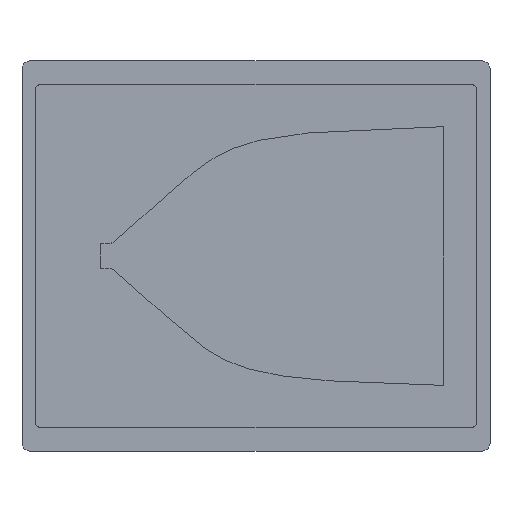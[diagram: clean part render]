
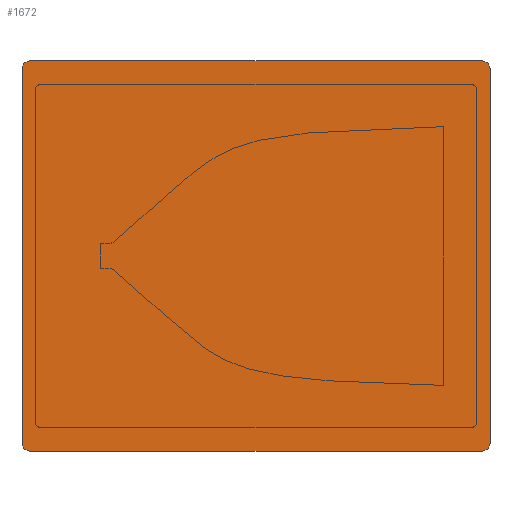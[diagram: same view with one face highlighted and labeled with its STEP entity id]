
A CAD part, front view. The second image highlights one B-rep face of the part: STEP entity #1672.
In plain terms, the highlighted planar face has unit normal (0, -1, 0) as drawn and (0, 0, 1) by its records, which use the part's own axes.
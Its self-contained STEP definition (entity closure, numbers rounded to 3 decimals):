
#176=FACE_OUTER_BOUND('',#277,.T.);
#277=EDGE_LOOP('',(#1502,#1503,#1504,#1505,#1506,#1507,#1508,#1509));
#436=LINE('',#3541,#603);
#438=LINE('',#3546,#605);
#442=LINE('',#3555,#609);
#448=LINE('',#3568,#615);
#603=VECTOR('',#2229,1000.);
#605=VECTOR('',#2233,1000.);
#609=VECTOR('',#2239,1000.);
#615=VECTOR('',#2247,1000.);
#659=CIRCLE('',#1825,10.);
#660=CIRCLE('',#1826,10.);
#661=CIRCLE('',#1827,10.);
#662=CIRCLE('',#1828,10.);
#809=VERTEX_POINT('',#3538);
#810=VERTEX_POINT('',#3540);
#811=VERTEX_POINT('',#3544);
#812=VERTEX_POINT('',#3545);
#815=VERTEX_POINT('',#3553);
#816=VERTEX_POINT('',#3554);
#821=VERTEX_POINT('',#3565);
#822=VERTEX_POINT('',#3567);
#1038=EDGE_CURVE('',#810,#809,#436,.T.);
#1040=EDGE_CURVE('',#811,#812,#438,.T.);
#1044=EDGE_CURVE('',#815,#816,#442,.T.);
#1050=EDGE_CURVE('',#822,#821,#448,.T.);
#1052=EDGE_CURVE('',#809,#811,#659,.T.);
#1053=EDGE_CURVE('',#812,#815,#660,.T.);
#1054=EDGE_CURVE('',#816,#822,#661,.T.);
#1055=EDGE_CURVE('',#821,#810,#662,.T.);
#1502=ORIENTED_EDGE('',*,*,#1038,.T.);
#1503=ORIENTED_EDGE('',*,*,#1052,.T.);
#1504=ORIENTED_EDGE('',*,*,#1040,.T.);
#1505=ORIENTED_EDGE('',*,*,#1053,.T.);
#1506=ORIENTED_EDGE('',*,*,#1044,.T.);
#1507=ORIENTED_EDGE('',*,*,#1054,.T.);
#1508=ORIENTED_EDGE('',*,*,#1050,.T.);
#1509=ORIENTED_EDGE('',*,*,#1055,.T.);
#1587=PLANE('',#1824);
#1672=ADVANCED_FACE('',(#176),#1587,.T.);
#1824=AXIS2_PLACEMENT_3D('',#3570,#2249,#2250);
#1825=AXIS2_PLACEMENT_3D('',#3571,#2251,#2252);
#1826=AXIS2_PLACEMENT_3D('',#3572,#2253,#2254);
#1827=AXIS2_PLACEMENT_3D('',#3573,#2255,#2256);
#1828=AXIS2_PLACEMENT_3D('',#3574,#2257,#2258);
#2229=DIRECTION('',(0.,-1.,0.));
#2233=DIRECTION('',(1.,0.,0.));
#2239=DIRECTION('',(0.,1.,0.));
#2247=DIRECTION('',(-1.,0.,0.));
#2249=DIRECTION('center_axis',(0.,0.,1.));
#2250=DIRECTION('ref_axis',(1.,0.,0.));
#2251=DIRECTION('center_axis',(0.,0.,1.));
#2252=DIRECTION('ref_axis',(1.,0.,0.));
#2253=DIRECTION('center_axis',(0.,0.,1.));
#2254=DIRECTION('ref_axis',(1.,0.,0.));
#2255=DIRECTION('center_axis',(0.,0.,1.));
#2256=DIRECTION('ref_axis',(1.,0.,0.));
#2257=DIRECTION('center_axis',(0.,0.,1.));
#2258=DIRECTION('ref_axis',(1.,0.,0.));
#3538=CARTESIAN_POINT('',(-510.186,-240.,0.5));
#3540=CARTESIAN_POINT('',(-510.186,240.,0.5));
#3541=CARTESIAN_POINT('',(-510.186,250.,0.5));
#3544=CARTESIAN_POINT('',(-500.186,-250.,0.5));
#3545=CARTESIAN_POINT('',(79.814,-250.,0.5));
#3546=CARTESIAN_POINT('',(-510.186,-250.,0.5));
#3553=CARTESIAN_POINT('',(89.814,-240.,0.5));
#3554=CARTESIAN_POINT('',(89.814,240.,0.5));
#3555=CARTESIAN_POINT('',(89.814,250.,0.5));
#3565=CARTESIAN_POINT('',(-500.186,250.,0.5));
#3567=CARTESIAN_POINT('',(79.814,250.,0.5));
#3568=CARTESIAN_POINT('',(-510.186,250.,0.5));
#3570=CARTESIAN_POINT('Origin',(0.,0.,0.5));
#3571=CARTESIAN_POINT('Origin',(-500.186,-240.,0.5));
#3572=CARTESIAN_POINT('Origin',(79.814,-240.,0.5));
#3573=CARTESIAN_POINT('Origin',(79.814,240.,0.5));
#3574=CARTESIAN_POINT('Origin',(-500.186,240.,0.5));
